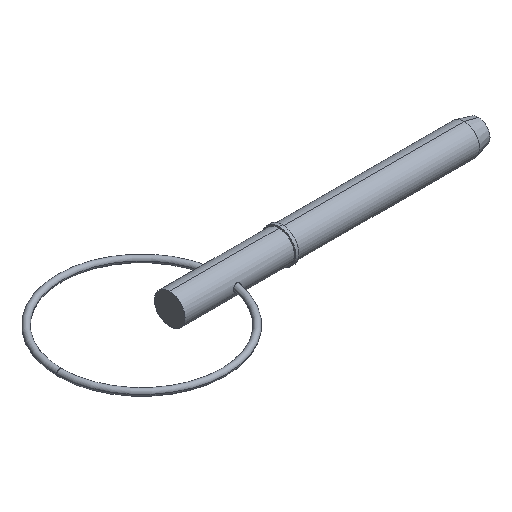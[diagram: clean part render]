
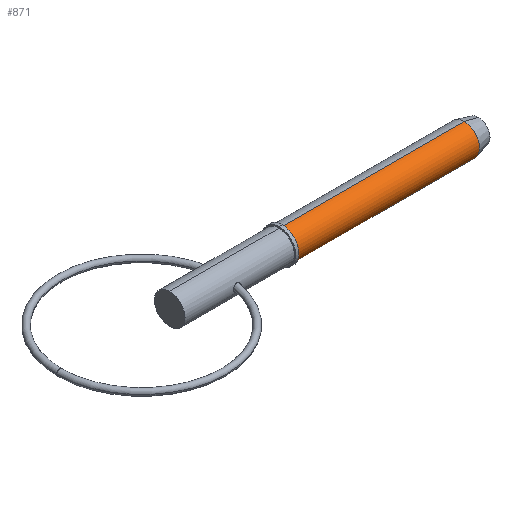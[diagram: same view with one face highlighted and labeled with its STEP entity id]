
A CAD part, isometric view. The second image highlights one B-rep face of the part: STEP entity #871.
In plain terms, the highlighted cylindrical face has radius 2.38 mm (diameter 4.76 mm), a partial arc.
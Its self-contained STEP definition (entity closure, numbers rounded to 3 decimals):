
#6 = CARTESIAN_POINT ( 'NONE',  ( 17.45, 0., 2.38 ) ) ;
#8 = AXIS2_PLACEMENT_3D ( 'NONE', #266, #163, #548 ) ;
#31 = CARTESIAN_POINT ( 'NONE',  ( 45.709, 0., -2.38 ) ) ;
#40 = DIRECTION ( 'NONE',  ( 1., 0., 0. ) ) ;
#63 = VERTEX_POINT ( 'NONE', #6 ) ;
#158 = LINE ( 'NONE', #484, #481 ) ;
#159 = EDGE_CURVE ( 'NONE', #282, #160, #832, .T. ) ;
#160 = VERTEX_POINT ( 'NONE', #31 ) ;
#163 = DIRECTION ( 'NONE',  ( 1., 0., 0. ) ) ;
#173 = EDGE_CURVE ( 'NONE', #358, #160, #278, .T. ) ;
#181 = EDGE_CURVE ( 'NONE', #63, #282, #756, .T. ) ;
#266 = CARTESIAN_POINT ( 'NONE',  ( 45.709, 0., 0. ) ) ;
#278 = CIRCLE ( 'NONE', #8, 2.38 ) ;
#282 = VERTEX_POINT ( 'NONE', #337 ) ;
#337 = CARTESIAN_POINT ( 'NONE',  ( 17.45, 0., -2.38 ) ) ;
#357 = DIRECTION ( 'NONE',  ( 0., 0., -1. ) ) ;
#358 = VERTEX_POINT ( 'NONE', #854 ) ;
#423 = FACE_OUTER_BOUND ( 'NONE', #574, .T. ) ;
#432 = CARTESIAN_POINT ( 'NONE',  ( 0., 0., 0. ) ) ;
#471 = CARTESIAN_POINT ( 'NONE',  ( 0., 0., -2.38 ) ) ;
#481 = VECTOR ( 'NONE', #776, 1000. ) ;
#484 = CARTESIAN_POINT ( 'NONE',  ( 0., 0., 2.38 ) ) ;
#548 = DIRECTION ( 'NONE',  ( 0., 0., -1. ) ) ;
#574 = EDGE_LOOP ( 'NONE', ( #887, #737, #609, #883 ) ) ;
#609 = ORIENTED_EDGE ( 'NONE', *, *, #159, .T. ) ;
#619 = DIRECTION ( 'NONE',  ( 0., 0., -1. ) ) ;
#635 = CARTESIAN_POINT ( 'NONE',  ( 17.45, 0., 0. ) ) ;
#707 = AXIS2_PLACEMENT_3D ( 'NONE', #432, #40, #357 ) ;
#730 = VECTOR ( 'NONE', #761, 1000. ) ;
#737 = ORIENTED_EDGE ( 'NONE', *, *, #181, .T. ) ;
#753 = EDGE_CURVE ( 'NONE', #63, #358, #158, .T. ) ;
#756 = CIRCLE ( 'NONE', #878, 2.38 ) ;
#761 = DIRECTION ( 'NONE',  ( 1., 0., 0. ) ) ;
#776 = DIRECTION ( 'NONE',  ( 1., 0., 0. ) ) ;
#832 = LINE ( 'NONE', #471, #730 ) ;
#854 = CARTESIAN_POINT ( 'NONE',  ( 45.709, 0., 2.38 ) ) ;
#869 = CYLINDRICAL_SURFACE ( 'NONE', #707, 2.38 ) ;
#871 = ADVANCED_FACE ( 'NONE', ( #423 ), #869, .T. ) ;
#878 = AXIS2_PLACEMENT_3D ( 'NONE', #635, #913, #619 ) ;
#883 = ORIENTED_EDGE ( 'NONE', *, *, #173, .F. ) ;
#887 = ORIENTED_EDGE ( 'NONE', *, *, #753, .F. ) ;
#913 = DIRECTION ( 'NONE',  ( 1., 0., 0. ) ) ;
